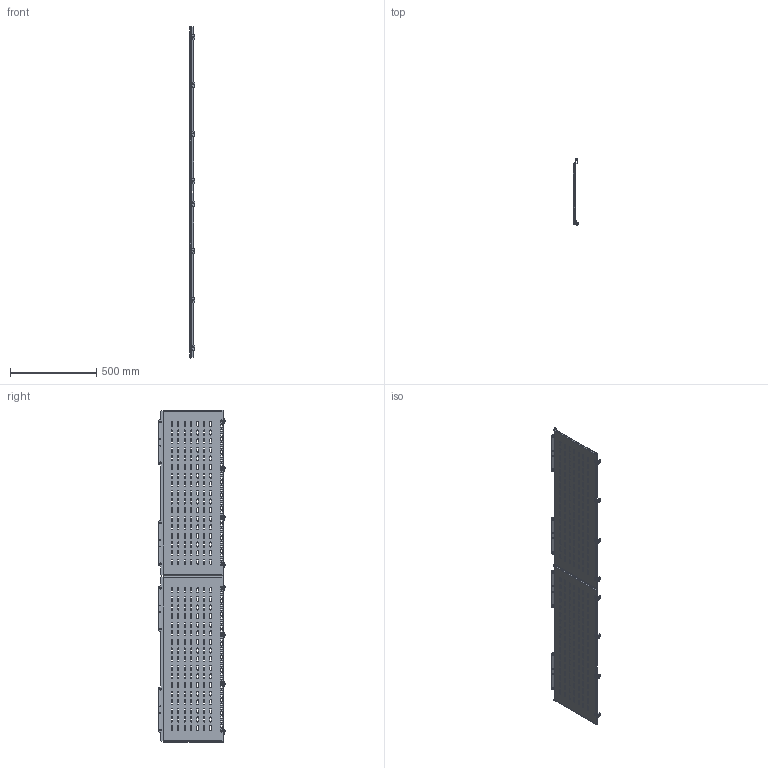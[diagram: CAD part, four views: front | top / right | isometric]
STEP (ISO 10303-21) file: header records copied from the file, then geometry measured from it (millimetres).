
FILE_DESCRIPTION (( 'STEP AP214' ), '1' );
FILE_NAME ('FO-00-SWBF-040-200 Ïåðåãîðîäêà ñåêöèîíèðîâàíèÿ âñòðîåííîãî îòñåêà çàäíÿÿ 400õ2000 ìì.STEP', '2025-08-13T08:16:42', ( '' ), ( '' ), 'SwSTEP 2.0', 'SolidWorks 2023', '' );
FILE_SCHEMA (( 'AUTOMOTIVE_DESIGN' ));
Length unit declared in the file: millimetre
Products named in the file (4): Перегородка секционирования встроенного отсека задняя 400x2000 мм F; Перегородка секционирования встроенного отсека задняя 400х2000 мм; Уголок; FO-00-SWBF-040-200 Перегородка секционирования встроенного отсека задняя 400х2000 мм
Assembly tree (7 placements, depth 3):
  FO-00-SWBF-040-200 Перегородка секционирования встроенного отсека задняя 400х2000 мм
    Перегородка секционирования встроенного отсека задняя 400х2000 мм  x2
      Перегородка секционирования встроенного отсека задняя 400x2000 мм F
      Уголок
Bounding box: 30.51 x 388.1 x 1927.85 mm (x, y, z)
Volume: 1097141.9 mm3; surface area: 1488257.7 mm2
Topology: 10 solids, 10 shells, 2602 faces, 7390 edges, 4872 vertices
Faces by surface type: cylinder 1438, plane 1004, torus 64, cone 64, sphere 32
Entity records: 35848 total; most frequent: CARTESIAN_POINT 6452, DIRECTION 6234, ORIENTED_EDGE 6088, EDGE_CURVE 3044, AXIS2_PLACEMENT_3D 2218, VERTEX_POINT 2016, VECTOR 1798, LINE 1798
